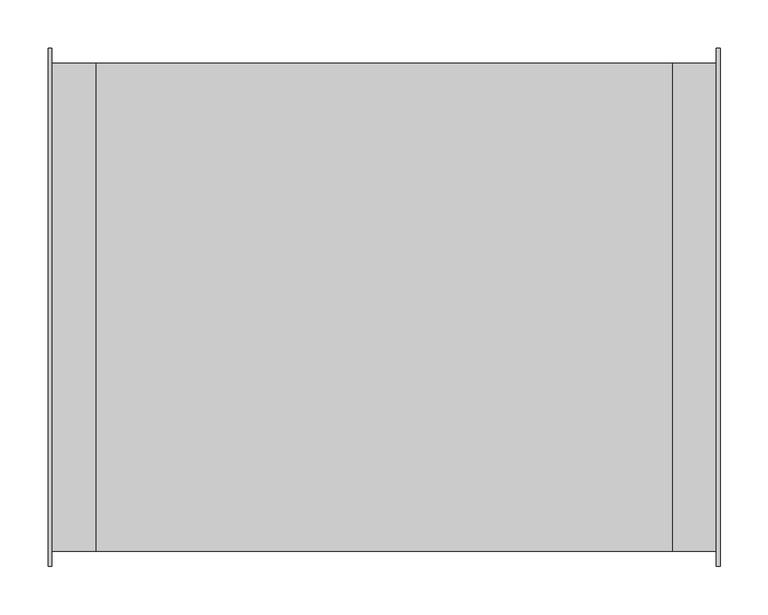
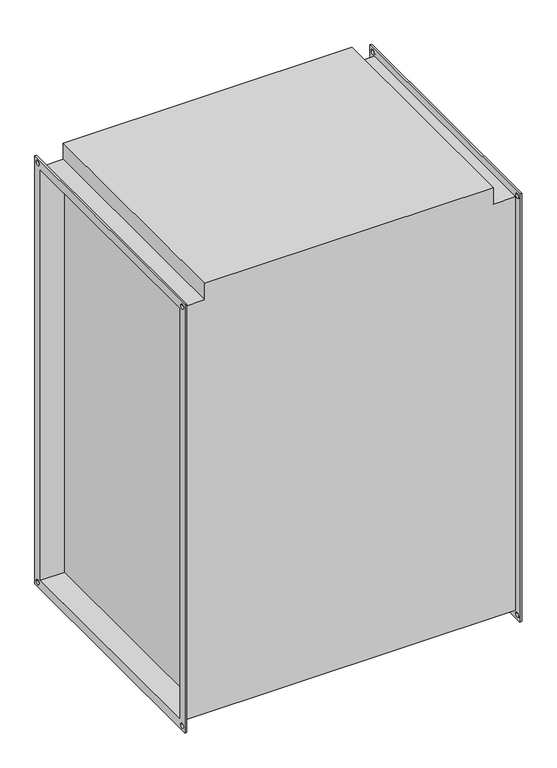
"""IFC4 building model written with IfcOpenShell, lengths in millimetres: proxy geometry, СВ_ВоздухонагревательЭлектрический_КанальныйПрямоугольный_200-1000_SPH-E : SPH-E-900x500/45."""

from ifc_helpers import new_model, si_unit, frame, origin, place, context, project, spatial, polyline, circle_curve, source, transform, mapped, element, save
from ifc_brep_helpers import plane_surface, revolved_surface, advanced_brep


def mechanical_equipment_759f91b6(model_context):
    return source(origin(), model_context, "Body", "AdvancedBrep", [
        advanced_brep(
        [(-300.0, -254.0, 454.0), (-346.0, -254.0, 454.0), (-346.0, -254.0, -454.0), (346.0, -254.0, -454.0), (346.0, -254.0, 454.0), (300.0, -254.0, 454.0), (300.0, -254.0, 490.0), (-300.0, -254.0, 490.0), (-346.0, 254.0, -454.0), (346.0, 254.0, -454.0), (-346.0, 254.0, 454.0), (-300.0, 254.0, 454.0), (-300.0, 254.0, 490.0), (300.0, 254.0, 490.0), (300.0, 254.0, 454.0), (346.0, 254.0, 454.0), (300.0, 250.0, -450.0), (300.0, 250.0, 450.0), (300.0, -250.0, 450.0), (300.0, -250.0, -450.0), (-300.0, -250.0, 450.0), (-300.0, 250.0, 450.0), (-300.0, 250.0, -450.0), (-300.0, -250.0, -450.0), (-350.0, -270.0, 470.0), (-350.0, 270.0, 470.0), (-350.0, 270.0, -470.0), (-350.0, -270.0, -470.0), (-350.0, -250.0, 450.0), (-350.0, -250.0, -450.0), (-350.0, 250.0, -450.0), (-350.0, 250.0, 450.0), (-350.0, 255.0, 460.0), (-350.0, 265.0, 460.0), (-350.0, -265.0, 460.0), (-350.0, -255.0, 460.0), (-350.0, -265.0, -460.0), (-350.0, -255.0, -460.0), (-350.0, 255.0, -460.0), (-350.0, 265.0, -460.0), (-346.0, -270.0, 470.0), (-346.0, -270.0, -470.0), (-346.0, 270.0, -470.0), (-346.0, 270.0, 470.0), (-346.0, 265.0, 460.0), (-346.0, 255.0, 460.0), (-346.0, -255.0, 460.0), (-346.0, -265.0, 460.0), (-346.0, -255.0, -460.0), (-346.0, -265.0, -460.0), (-346.0, 265.0, -460.0), (-346.0, 255.0, -460.0), (346.0, 270.0, 470.0), (346.0, 270.0, -470.0), (346.0, -270.0, -470.0), (346.0, -270.0, 470.0), (346.0, 255.0, 460.0), (346.0, 265.0, 460.0), (346.0, -265.0, 460.0), (346.0, -255.0, 460.0), (346.0, -265.0, -460.0), (346.0, -255.0, -460.0), (346.0, 255.0, -460.0), (346.0, 265.0, -460.0), (350.0, 270.0, 470.0), (350.0, -270.0, 470.0), (350.0, -270.0, -470.0), (350.0, 270.0, -470.0), (350.0, 250.0, 450.0), (350.0, 250.0, -450.0), (350.0, -250.0, -450.0), (350.0, -250.0, 450.0), (350.0, 265.0, 460.0), (350.0, 255.0, 460.0), (350.0, -255.0, 460.0), (350.0, -265.0, 460.0), (350.0, -255.0, -460.0), (350.0, -265.0, -460.0), (350.0, 265.0, -460.0), (350.0, 255.0, -460.0)],
        [
            (0, 1),
            (1, 2),
            (2, 3),
            (3, 4),
            (4, 5),
            (5, 6),
            (6, 7),
            (7, 0),
            (2, 8),
            (8, 9),
            (9, 3),
            (10, 11),
            (11, 12),
            (12, 13),
            (13, 14),
            (14, 15),
            (15, 9),
            (8, 10),
            (0, 11),
            (10, 1),
            (13, 6),
            (5, 14),
            (16, 17),
            (17, 18),
            (18, 19),
            (19, 16),
            (7, 12),
            (20, 21),
            (21, 22),
            (22, 23),
            (23, 20),
            (4, 15),
            (24, 25),
            (25, 26),
            (26, 27),
            (27, 24),
            (28, 29),
            (29, 30),
            (30, 31),
            (31, 28),
            (32, 33, circle_curve(frame((-350.0, 260.0, 460.0), z_axis=(1.0, 0.0, 0.0), x_axis=(0.0, 1.0, 0.0)), 5.0)),
            (33, 32, circle_curve(frame((-350.0, 260.0, 460.0), z_axis=(1.0, 0.0, 0.0), x_axis=(0.0, 1.0, 0.0)), 5.0)),
            (34, 35, circle_curve(frame((-350.0, -260.0, 460.0), z_axis=(1.0, 0.0, 0.0), x_axis=(0.0, 1.0, 0.0)), 5.0)),
            (35, 34, circle_curve(frame((-350.0, -260.0, 460.0), z_axis=(1.0, 0.0, 0.0), x_axis=(0.0, 1.0, 0.0)), 5.0)),
            (36, 37, circle_curve(frame((-350.0, -260.0, -460.0), z_axis=(1.0, 0.0, 0.0), x_axis=(0.0, 1.0, 0.0)), 5.0)),
            (37, 36, circle_curve(frame((-350.0, -260.0, -460.0), z_axis=(1.0, 0.0, 0.0), x_axis=(0.0, 1.0, 0.0)), 5.0)),
            (38, 39, circle_curve(frame((-350.0, 260.0, -460.0), z_axis=(1.0, 0.0, 0.0), x_axis=(0.0, 1.0, 0.0)), 5.0)),
            (39, 38, circle_curve(frame((-350.0, 260.0, -460.0), z_axis=(1.0, 0.0, 0.0), x_axis=(0.0, 1.0, 0.0)), 5.0)),
            (40, 41),
            (41, 42),
            (42, 43),
            (43, 40),
            (44, 45, circle_curve(frame((-346.0, 260.0, 460.0), z_axis=(-1.0, 0.0, 0.0), x_axis=(0.0, 1.0, 0.0)), 5.0)),
            (45, 44, circle_curve(frame((-346.0, 260.0, 460.0), z_axis=(-1.0, 0.0, 0.0), x_axis=(0.0, 1.0, 0.0)), 5.0)),
            (46, 47, circle_curve(frame((-346.0, -260.0, 460.0), z_axis=(-1.0, 0.0, 0.0), x_axis=(0.0, 1.0, 0.0)), 5.0)),
            (47, 46, circle_curve(frame((-346.0, -260.0, 460.0), z_axis=(-1.0, 0.0, 0.0), x_axis=(0.0, 1.0, 0.0)), 5.0)),
            (48, 49, circle_curve(frame((-346.0, -260.0, -460.0), z_axis=(-1.0, 0.0, 0.0), x_axis=(0.0, 1.0, 0.0)), 5.0)),
            (49, 48, circle_curve(frame((-346.0, -260.0, -460.0), z_axis=(-1.0, 0.0, 0.0), x_axis=(0.0, 1.0, 0.0)), 5.0)),
            (50, 51, circle_curve(frame((-346.0, 260.0, -460.0), z_axis=(-1.0, 0.0, 0.0), x_axis=(0.0, 1.0, 0.0)), 5.0)),
            (51, 50, circle_curve(frame((-346.0, 260.0, -460.0), z_axis=(-1.0, 0.0, 0.0), x_axis=(0.0, 1.0, 0.0)), 5.0)),
            (27, 41),
            (40, 24),
            (26, 42),
            (25, 43),
            (52, 53),
            (53, 54),
            (54, 55),
            (55, 52),
            (56, 57, circle_curve(frame((346.0, 260.0, 460.0), z_axis=(1.0, 0.0, 0.0), x_axis=(0.0, 1.0, 0.0)), 5.0)),
            (57, 56, circle_curve(frame((346.0, 260.0, 460.0), z_axis=(1.0, 0.0, 0.0), x_axis=(0.0, 1.0, 0.0)), 5.0)),
            (58, 59, circle_curve(frame((346.0, -260.0, 460.0), z_axis=(1.0, 0.0, 0.0), x_axis=(0.0, 1.0, 0.0)), 5.0)),
            (59, 58, circle_curve(frame((346.0, -260.0, 460.0), z_axis=(1.0, 0.0, 0.0), x_axis=(0.0, 1.0, 0.0)), 5.0)),
            (60, 61, circle_curve(frame((346.0, -260.0, -460.0), z_axis=(1.0, 0.0, 0.0), x_axis=(0.0, 1.0, 0.0)), 5.0)),
            (61, 60, circle_curve(frame((346.0, -260.0, -460.0), z_axis=(1.0, 0.0, 0.0), x_axis=(0.0, 1.0, 0.0)), 5.0)),
            (62, 63, circle_curve(frame((346.0, 260.0, -460.0), z_axis=(1.0, 0.0, 0.0), x_axis=(0.0, 1.0, 0.0)), 5.0)),
            (63, 62, circle_curve(frame((346.0, 260.0, -460.0), z_axis=(1.0, 0.0, 0.0), x_axis=(0.0, 1.0, 0.0)), 5.0)),
            (64, 65),
            (65, 66),
            (66, 67),
            (67, 64),
            (68, 69),
            (69, 70),
            (70, 71),
            (71, 68),
            (72, 73, circle_curve(frame((350.0, 260.0, 460.0), z_axis=(-1.0, 0.0, 0.0), x_axis=(0.0, 1.0, 0.0)), 5.0)),
            (73, 72, circle_curve(frame((350.0, 260.0, 460.0), z_axis=(-1.0, 0.0, 0.0), x_axis=(0.0, 1.0, 0.0)), 5.0)),
            (74, 75, circle_curve(frame((350.0, -260.0, 460.0), z_axis=(-1.0, 0.0, 0.0), x_axis=(0.0, 1.0, 0.0)), 5.0)),
            (75, 74, circle_curve(frame((350.0, -260.0, 460.0), z_axis=(-1.0, 0.0, 0.0), x_axis=(0.0, 1.0, 0.0)), 5.0)),
            (76, 77, circle_curve(frame((350.0, -260.0, -460.0), z_axis=(-1.0, 0.0, 0.0), x_axis=(0.0, 1.0, 0.0)), 5.0)),
            (77, 76, circle_curve(frame((350.0, -260.0, -460.0), z_axis=(-1.0, 0.0, 0.0), x_axis=(0.0, 1.0, 0.0)), 5.0)),
            (78, 79, circle_curve(frame((350.0, 260.0, -460.0), z_axis=(-1.0, 0.0, 0.0), x_axis=(0.0, 1.0, 0.0)), 5.0)),
            (79, 78, circle_curve(frame((350.0, 260.0, -460.0), z_axis=(-1.0, 0.0, 0.0), x_axis=(0.0, 1.0, 0.0)), 5.0)),
            (55, 65),
            (64, 52),
            (54, 66),
            (53, 67),
            (31, 21),
            (20, 28),
            (30, 22),
            (29, 23),
            (68, 17),
            (16, 69),
            (19, 70),
            (18, 71),
            (32, 45),
            (44, 33),
            (56, 73),
            (72, 57),
            (34, 47),
            (46, 35),
            (58, 75),
            (74, 59),
            (36, 49),
            (48, 37),
            (60, 77),
            (76, 61),
            (38, 51),
            (50, 39),
            (62, 79),
            (78, 63),
        ],
        [
            plane_surface(frame((-300.0, -254.0, 454.0), z_axis=(0.0, -1.0, 0.0), x_axis=(-1.0, 0.0, 0.0))),
            plane_surface(frame((-300.0, -254.0, -454.0), z_axis=(0.0, 0.0, -1.0), x_axis=(-1.0, 0.0, 0.0))),
            plane_surface(frame((-300.0, 254.0, -454.0), z_axis=(0.0, 1.0, 0.0), x_axis=(-1.0, 0.0, 0.0))),
            plane_surface(frame((-300.0, 254.0, 454.0), z_axis=(0.0, 0.0, 1.0), x_axis=(-1.0, 0.0, 0.0))),
            plane_surface(frame((300.0, -254.0, 490.0), z_axis=(1.0, 0.0, 0.0), x_axis=(0.0, 0.0, -1.0))),
            plane_surface(frame((-300.0, -254.0, 490.0), z_axis=(-1.0, 0.0, 0.0), x_axis=(0.0, 0.0, 1.0))),
            plane_surface(frame((300.0, 254.0, 490.0), z_axis=(0.0, 0.0, 1.0), x_axis=(-1.0, 0.0, 0.0))),
            plane_surface(frame((346.0, 254.0, 454.0), z_axis=(0.0, 0.0, 1.0), x_axis=(-1.0, 0.0, 0.0))),
            plane_surface(frame((-350.0, -270.0, 470.0), z_axis=(-1.0, 0.0, 0.0), x_axis=(0.0, 0.0, 1.0))),
            plane_surface(frame((-346.0, -270.0, 470.0), z_axis=(1.0, 0.0, 0.0), x_axis=(0.0, 0.0, -1.0))),
            plane_surface(frame((-346.0, -270.0, 470.0), z_axis=(0.0, -1.0, 0.0), x_axis=(-1.0, 0.0, 0.0))),
            plane_surface(frame((-346.0, -270.0, -470.0), z_axis=(0.0, 0.0, -1.0), x_axis=(-1.0, 0.0, 0.0))),
            plane_surface(frame((-346.0, 270.0, -470.0), z_axis=(0.0, 1.0, 0.0), x_axis=(-1.0, 0.0, 0.0))),
            plane_surface(frame((-346.0, 270.0, 470.0), z_axis=(0.0, 0.0, 1.0), x_axis=(-1.0, 0.0, 0.0))),
            plane_surface(frame((346.0, 250.0, -450.0), z_axis=(-1.0, 0.0, 0.0), x_axis=(0.0, 0.0, 1.0))),
            plane_surface(frame((350.0, 250.0, -450.0), z_axis=(1.0, 0.0, 0.0), x_axis=(0.0, 0.0, -1.0))),
            plane_surface(frame((350.0, 270.0, 470.0), z_axis=(0.0, 0.0, 1.0), x_axis=(-1.0, 0.0, 0.0))),
            plane_surface(frame((350.0, -270.0, 470.0), z_axis=(0.0, -1.0, 0.0), x_axis=(-1.0, 0.0, 0.0))),
            plane_surface(frame((350.0, -270.0, -470.0), z_axis=(0.0, 0.0, -1.0), x_axis=(-1.0, 0.0, 0.0))),
            plane_surface(frame((350.0, 270.0, -470.0), z_axis=(0.0, 1.0, 0.0), x_axis=(-1.0, 0.0, 0.0))),
            plane_surface(frame((-346.0, -250.0, 450.0), z_axis=(0.0, 0.0, -1.0), x_axis=(-1.0, 0.0, 0.0))),
            plane_surface(frame((-346.0, 250.0, 450.0), z_axis=(0.0, -1.0, 0.0), x_axis=(-1.0, 0.0, 0.0))),
            plane_surface(frame((-346.0, 250.0, -450.0), z_axis=(0.0, 0.0, 1.0), x_axis=(-1.0, 0.0, 0.0))),
            plane_surface(frame((-346.0, -250.0, -450.0), z_axis=(0.0, 1.0, 0.0), x_axis=(-1.0, 0.0, 0.0))),
            plane_surface(frame((350.0, 250.0, 450.0), z_axis=(0.0, -1.0, 0.0), x_axis=(-1.0, 0.0, 0.0))),
            plane_surface(frame((350.0, 250.0, -450.0), z_axis=(0.0, 0.0, 1.0), x_axis=(-1.0, 0.0, 0.0))),
            plane_surface(frame((350.0, -250.0, -450.0), z_axis=(0.0, 1.0, 0.0), x_axis=(-1.0, 0.0, 0.0))),
            plane_surface(frame((350.0, -250.0, 450.0), z_axis=(0.0, 0.0, -1.0), x_axis=(-1.0, 0.0, 0.0))),
            revolved_surface(polyline([(-346.0, 265.0, 460.0), (-350.0, 265.0, 460.0)]), (-350.0, 260.0, 460.0), (1.0, 0.0, 0.0)),
            revolved_surface(polyline([(350.0, 265.0, 460.0), (346.0, 265.0, 460.0)]), (-350.0, 260.0, 460.0), (1.0, 0.0, 0.0)),
            revolved_surface(polyline([(-346.0, -255.0, 460.0), (-350.0, -255.0, 460.0)]), (0.0, -260.0, 460.0), (1.0, 0.0, 0.0)),
            revolved_surface(polyline([(350.0, -255.0, 460.0), (346.0, -255.0, 460.0)]), (0.0, -260.0, 460.0), (1.0, 0.0, 0.0)),
            revolved_surface(polyline([(-346.0, -255.0, -460.0), (-350.0, -255.0, -460.0)]), (0.0, -260.0, -460.0), (1.0, 0.0, 0.0)),
            revolved_surface(polyline([(350.0, -255.0, -460.0), (346.0, -255.0, -460.0)]), (0.0, -260.0, -460.0), (1.0, 0.0, 0.0)),
            revolved_surface(polyline([(-346.0, 265.0, -460.0), (-350.0, 265.0, -460.0)]), (0.0, 260.0, -460.0), (1.0, 0.0, 0.0)),
            revolved_surface(polyline([(350.0, 265.0, -460.0), (346.0, 265.0, -460.0)]), (0.0, 260.0, -460.0), (1.0, 0.0, 0.0)),
        ],
        [
            (0, [[1, 2, 3, 4, 5, 6, 7, 8]]),
            (1, [[-3, 9, 10, 11]]),
            (2, [[12, 13, 14, 15, 16, 17, -10, 18]]),
            (3, [[-1, 19, -12, 20]]),
            (4, [[21, -6, 22, -15]]),
            (4, [[23, 24, 25, 26]]),
            (5, [[27, -13, -19, -8]]),
            (5, [[28, 29, 30, 31]]),
            (6, [[-21, -14, -27, -7]]),
            (7, [[-5, 32, -16, -22]]),
            (8, [[33, 34, 35, 36], [37, 38, 39, 40], [41, 42], [43, 44], [45, 46], [47, 48]]),
            (9, [[49, 50, 51, 52], [-2, -20, -18, -9], [53, 54], [55, 56], [57, 58], [59, 60]]),
            (10, [[-36, 61, -49, 62]]),
            (11, [[-35, 63, -50, -61]]),
            (12, [[-34, 64, -51, -63]]),
            (13, [[-33, -62, -52, -64]]),
            (14, [[65, 66, 67, 68], [-4, -11, -17, -32], [69, 70], [71, 72], [73, 74], [75, 76]]),
            (15, [[77, 78, 79, 80], [81, 82, 83, 84], [85, 86], [87, 88], [89, 90], [91, 92]]),
            (16, [[-68, 93, -77, 94]]),
            (17, [[-67, 95, -78, -93]]),
            (18, [[-66, 96, -79, -95]]),
            (19, [[-65, -94, -80, -96]]),
            (20, [[-40, 97, -28, 98]]),
            (21, [[-39, 99, -29, -97]]),
            (22, [[-38, 100, -30, -99]]),
            (23, [[-37, -98, -31, -100]]),
            (24, [[-81, 101, -23, 102]]),
            (25, [[-82, -102, -26, 103]]),
            (26, [[-83, -103, -25, 104]]),
            (27, [[-101, -84, -104, -24]]),
            (28, [[105, -53, 106, -41]]),
            (29, [[107, -85, 108, -69]]),
            (28, [[-105, -42, -106, -54]]),
            (29, [[-107, -70, -108, -86]]),
            (30, [[109, -55, 110, -43]]),
            (31, [[111, -87, 112, -71]]),
            (30, [[-109, -44, -110, -56]]),
            (31, [[-111, -72, -112, -88]]),
            (32, [[113, -57, 114, -45]]),
            (33, [[115, -89, 116, -73]]),
            (32, [[-113, -46, -114, -58]]),
            (33, [[-115, -74, -116, -90]]),
            (34, [[117, -59, 118, -47]]),
            (35, [[119, -91, 120, -75]]),
            (34, [[-117, -48, -118, -60]]),
            (35, [[-119, -76, -120, -92]]),
        ],
    ),
    ])


if __name__ == "__main__":
    model = new_model("IFC4")
    model_context = context("Model", 3, world=origin())
    ifc_project = project(units=[si_unit("LENGTHUNIT", "METRE", prefix="MILLI")], contexts=[model_context])
    site = spatial("IfcSite", under=ifc_project)
    building = spatial("IfcBuilding", under=site)
    placement = place(None, origin())
    mechanical_equipment_shape = mechanical_equipment_759f91b6(model_context)
    element("IfcBuildingElementProxy", 1, Name="СВ_ВоздухонагревательЭлектрический_КанальныйПрямоугольный_200-1000_SPH-E : SPH-E-900x500/45", ObjectType="СВ_ВоздухонагревательЭлектрический_КанальныйПрямоугольный_200-1000_SPH-E : SPH-E-900x500/45", at=placement, inside=building, context=model_context, shape_type="MappedRepresentation", body=[
        mapped(mechanical_equipment_shape, transform((0.0, 0.0, 0.0), x_axis=(1.0, 0.0, 0.0), y_axis=(0.0, 1.0, 0.0), z_axis=(0.0, 0.0, 1.0))),
    ])
    save(model, "model.ifc")
